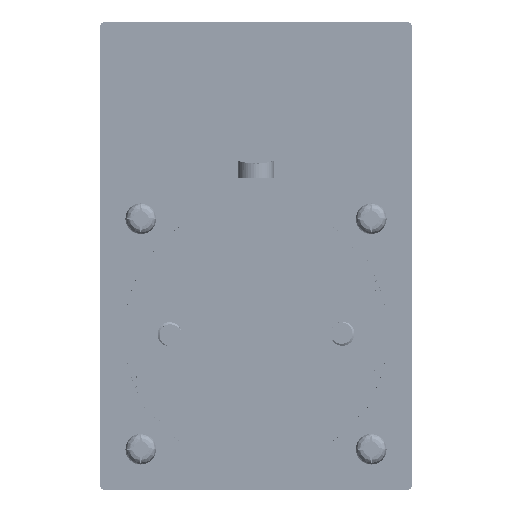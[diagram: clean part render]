
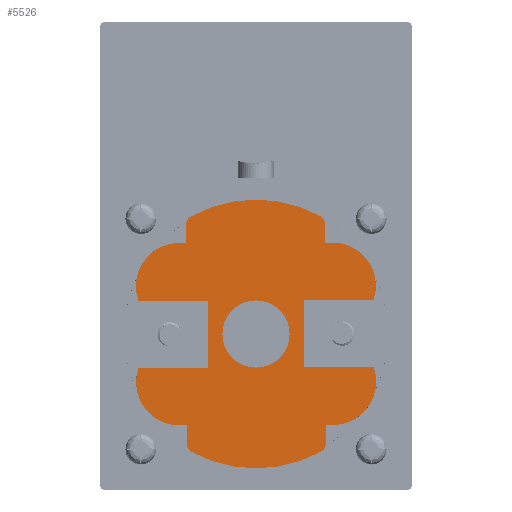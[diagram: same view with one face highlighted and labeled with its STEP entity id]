
A CAD part, front view. The second image highlights one B-rep face of the part: STEP entity #5526.
In plain terms, the highlighted planar face has unit normal (0, -1, 0).
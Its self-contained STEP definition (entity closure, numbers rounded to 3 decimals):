
#5526=ADVANCED_FACE('',(#12240,#12241),#6732,.F.);
#6732=PLANE('',#37020);
#8851=LINE('',#160143,#11273);
#8854=LINE('',#160149,#11276);
#8858=LINE('',#160161,#11280);
#8861=LINE('',#160169,#11283);
#8863=LINE('',#160173,#11285);
#8865=LINE('',#160177,#11287);
#8867=LINE('',#160193,#11289);
#8871=LINE('',#160214,#11293);
#8873=LINE('',#160231,#11295);
#8875=LINE('',#160235,#11297);
#9004=LINE('',#160579,#11426);
#9009=LINE('',#160591,#11431);
#9044=LINE('',#160705,#11466);
#9048=LINE('',#160727,#11470);
#11273=VECTOR('',#44449,1.);
#11276=VECTOR('',#44454,1.);
#11280=VECTOR('',#44466,1.);
#11283=VECTOR('',#44475,1.);
#11285=VECTOR('',#44479,1.);
#11287=VECTOR('',#44483,1.);
#11289=VECTOR('',#44491,1.);
#11293=VECTOR('',#44501,1.);
#11295=VECTOR('',#44511,1.);
#11297=VECTOR('',#44515,1.);
#11426=VECTOR('',#44856,1.);
#11431=VECTOR('',#44871,1.);
#11466=VECTOR('',#44972,1.);
#11470=VECTOR('',#44998,1.);
#12240=FACE_BOUND('',#14242,.T.);
#12241=FACE_BOUND('',#14243,.T.);
#14242=EDGE_LOOP('',(#23365,#23366,#23367,#23368,#23369,#23370,#23371,#23372,
#23373,#23374,#23375,#23376,#23377,#23378,#23379,#23380,#23381,#23382,#23383,
#23384,#23385,#23386,#23387,#23388,#23389));
#14243=EDGE_LOOP('',(#23390));
#23365=ORIENTED_EDGE('',*,*,#32181,.F.);
#23366=ORIENTED_EDGE('',*,*,#32179,.T.);
#23367=ORIENTED_EDGE('',*,*,#32175,.T.);
#23368=ORIENTED_EDGE('',*,*,#32356,.T.);
#23369=ORIENTED_EDGE('',*,*,#32424,.T.);
#23370=ORIENTED_EDGE('',*,*,#32425,.T.);
#23371=ORIENTED_EDGE('',*,*,#32426,.T.);
#23372=ORIENTED_EDGE('',*,*,#32364,.T.);
#23373=ORIENTED_EDGE('',*,*,#32171,.T.);
#23374=ORIENTED_EDGE('',*,*,#32168,.T.);
#23375=ORIENTED_EDGE('',*,*,#32165,.T.);
#23376=ORIENTED_EDGE('',*,*,#32163,.F.);
#23377=ORIENTED_EDGE('',*,*,#32161,.F.);
#23378=ORIENTED_EDGE('',*,*,#32159,.F.);
#23379=ORIENTED_EDGE('',*,*,#32157,.T.);
#23380=ORIENTED_EDGE('',*,*,#32155,.T.);
#23381=ORIENTED_EDGE('',*,*,#32417,.T.);
#23382=ORIENTED_EDGE('',*,*,#32427,.T.);
#23383=ORIENTED_EDGE('',*,*,#32428,.T.);
#23384=ORIENTED_EDGE('',*,*,#32429,.T.);
#23385=ORIENTED_EDGE('',*,*,#32430,.T.);
#23386=ORIENTED_EDGE('',*,*,#32183,.T.);
#23387=ORIENTED_EDGE('',*,*,#32152,.T.);
#23388=ORIENTED_EDGE('',*,*,#32149,.F.);
#23389=ORIENTED_EDGE('',*,*,#32146,.F.);
#23390=ORIENTED_EDGE('',*,*,#32145,.F.);
#27413=VERTEX_POINT('',#160141);
#27414=VERTEX_POINT('',#160144);
#27415=VERTEX_POINT('',#160145);
#27416=VERTEX_POINT('',#160150);
#27418=VERTEX_POINT('',#160156);
#27419=VERTEX_POINT('',#160160);
#27420=VERTEX_POINT('',#160162);
#27421=VERTEX_POINT('',#160166);
#27422=VERTEX_POINT('',#160170);
#27423=VERTEX_POINT('',#160174);
#27424=VERTEX_POINT('',#160178);
#27425=VERTEX_POINT('',#160182);
#27427=VERTEX_POINT('',#160194);
#27429=VERTEX_POINT('',#160206);
#27432=VERTEX_POINT('',#160213);
#27433=VERTEX_POINT('',#160215);
#27435=VERTEX_POINT('',#160228);
#27437=VERTEX_POINT('',#160236);
#27536=VERTEX_POINT('',#160577);
#27540=VERTEX_POINT('',#160592);
#27580=VERTEX_POINT('',#160703);
#27584=VERTEX_POINT('',#160717);
#27585=VERTEX_POINT('',#160719);
#27586=VERTEX_POINT('',#160722);
#27587=VERTEX_POINT('',#160724);
#27588=VERTEX_POINT('',#160726);
#32145=EDGE_CURVE('',#27413,#27413,#34060,.T.);
#32146=EDGE_CURVE('',#27414,#27415,#8851,.T.);
#32149=EDGE_CURVE('',#27415,#27416,#8854,.T.);
#32152=EDGE_CURVE('',#27418,#27416,#34062,.T.);
#32155=EDGE_CURVE('',#27420,#27419,#8858,.T.);
#32157=EDGE_CURVE('',#27421,#27420,#34063,.T.);
#32159=EDGE_CURVE('',#27421,#27422,#8861,.T.);
#32161=EDGE_CURVE('',#27422,#27423,#8863,.T.);
#32163=EDGE_CURVE('',#27423,#27424,#8865,.T.);
#32165=EDGE_CURVE('',#27425,#27424,#34064,.T.);
#32168=EDGE_CURVE('',#27427,#27425,#8867,.T.);
#32171=EDGE_CURVE('',#27429,#27427,#34065,.T.);
#32175=EDGE_CURVE('',#27433,#27432,#8871,.T.);
#32179=EDGE_CURVE('',#27435,#27433,#34067,.T.);
#32181=EDGE_CURVE('',#27435,#27414,#8873,.T.);
#32183=EDGE_CURVE('',#27437,#27418,#8875,.T.);
#32356=EDGE_CURVE('',#27432,#27536,#9004,.T.);
#32364=EDGE_CURVE('',#27540,#27429,#9009,.T.);
#32417=EDGE_CURVE('',#27419,#27580,#9044,.T.);
#32424=EDGE_CURVE('',#27536,#27584,#34133,.T.);
#32425=EDGE_CURVE('',#27584,#27585,#34134,.T.);
#32426=EDGE_CURVE('',#27585,#27540,#34135,.T.);
#32427=EDGE_CURVE('',#27580,#27586,#34136,.T.);
#32428=EDGE_CURVE('',#27586,#27587,#34137,.T.);
#32429=EDGE_CURVE('',#27587,#27588,#34138,.T.);
#32430=EDGE_CURVE('',#27588,#27437,#9048,.T.);
#34060=CIRCLE('',#36842,7.);
#34062=CIRCLE('',#36847,9.);
#34063=CIRCLE('',#36850,9.);
#34064=CIRCLE('',#36855,9.);
#34065=CIRCLE('',#36858,8.96);
#34067=CIRCLE('',#36862,9.);
#34133=CIRCLE('',#37014,2.);
#34134=CIRCLE('',#37015,28.);
#34135=CIRCLE('',#37016,2.);
#34136=CIRCLE('',#37017,2.);
#34137=CIRCLE('',#37018,28.);
#34138=CIRCLE('',#37019,2.);
#36842=AXIS2_PLACEMENT_3D('',#160140,#44445,#44446);
#36847=AXIS2_PLACEMENT_3D('',#160155,#44460,#44461);
#36850=AXIS2_PLACEMENT_3D('',#160165,#44470,#44471);
#36855=AXIS2_PLACEMENT_3D('',#160181,#44487,#44488);
#36858=AXIS2_PLACEMENT_3D('',#160205,#44494,#44495);
#36862=AXIS2_PLACEMENT_3D('',#160227,#44506,#44507);
#37014=AXIS2_PLACEMENT_3D('',#160716,#44986,#44987);
#37015=AXIS2_PLACEMENT_3D('',#160718,#44988,#44989);
#37016=AXIS2_PLACEMENT_3D('',#160720,#44990,#44991);
#37017=AXIS2_PLACEMENT_3D('',#160721,#44992,#44993);
#37018=AXIS2_PLACEMENT_3D('',#160723,#44994,#44995);
#37019=AXIS2_PLACEMENT_3D('',#160725,#44996,#44997);
#37020=AXIS2_PLACEMENT_3D('',#160728,#44999,#45000);
#44445=DIRECTION('',(0.,-1.,0.));
#44446=DIRECTION('',(-1.,0.,-0.003));
#44449=DIRECTION('',(-0.003,0.,1.));
#44454=DIRECTION('',(-1.,0.,-0.003));
#44460=DIRECTION('',(0.,-1.,0.));
#44461=DIRECTION('',(-1.,0.,-0.003));
#44466=DIRECTION('',(-1.,0.,-0.003));
#44470=DIRECTION('',(0.,-1.,0.));
#44471=DIRECTION('',(1.,0.,0.003));
#44475=DIRECTION('',(-1.,0.,-0.003));
#44479=DIRECTION('',(0.003,0.,-1.));
#44483=DIRECTION('',(1.,0.,0.003));
#44487=DIRECTION('',(0.,-1.,0.));
#44488=DIRECTION('',(0.,0.,-1.));
#44491=DIRECTION('',(1.,0.,0.003));
#44494=DIRECTION('',(0.,-1.,0.));
#44495=DIRECTION('',(0.,0.,-1.));
#44501=DIRECTION('',(1.,0.,0.003));
#44506=DIRECTION('',(0.,-1.,0.));
#44507=DIRECTION('',(-0.89,0.,0.456));
#44511=DIRECTION('',(1.,0.,0.003));
#44515=DIRECTION('',(-1.,0.,-0.003));
#44856=DIRECTION('',(0.003,0.,-1.));
#44871=DIRECTION('',(-0.003,0.,1.));
#44972=DIRECTION('',(-0.003,0.,1.));
#44986=DIRECTION('',(0.,-1.,0.));
#44987=DIRECTION('',(1.,0.,0.003));
#44988=DIRECTION('',(0.,-1.,0.));
#44989=DIRECTION('',(1.,0.,0.003));
#44990=DIRECTION('',(0.,-1.,0.));
#44991=DIRECTION('',(1.,0.,0.003));
#44992=DIRECTION('',(0.,-1.,0.));
#44993=DIRECTION('',(1.,0.,0.003));
#44994=DIRECTION('',(0.,-1.,0.));
#44995=DIRECTION('',(1.,0.,0.003));
#44996=DIRECTION('',(0.,-1.,0.));
#44997=DIRECTION('',(1.,0.,0.003));
#44998=DIRECTION('',(0.003,0.,-1.));
#44999=DIRECTION('',(0.,1.,0.));
#45000=DIRECTION('',(0.,0.,1.));
#160140=CARTESIAN_POINT('',(0.,-135.1,0.));
#160141=CARTESIAN_POINT('',(-7.,-135.1,-0.018));
#160143=CARTESIAN_POINT('',(-9.982,-135.1,-7.026));
#160144=CARTESIAN_POINT('',(-9.982,-135.1,-7.026));
#160145=CARTESIAN_POINT('',(-10.018,-135.1,6.974));
#160149=CARTESIAN_POINT('',(-10.018,-135.1,6.974));
#160150=CARTESIAN_POINT('',(-24.503,-135.1,6.937));
#160155=CARTESIAN_POINT('',(-16.026,-135.1,9.959));
#160156=CARTESIAN_POINT('',(-16.049,-135.1,18.959));
#160160=CARTESIAN_POINT('',(14.451,-135.1,19.037));
#160161=CARTESIAN_POINT('',(15.951,-135.1,19.041));
#160162=CARTESIAN_POINT('',(15.951,-135.1,19.041));
#160165=CARTESIAN_POINT('',(15.974,-135.1,10.041));
#160166=CARTESIAN_POINT('',(24.467,-135.1,7.063));
#160169=CARTESIAN_POINT('',(34.164,-135.1,7.088));
#160170=CARTESIAN_POINT('',(9.982,-135.1,7.026));
#160173=CARTESIAN_POINT('',(9.982,-135.1,7.026));
#160174=CARTESIAN_POINT('',(10.018,-135.1,-6.974));
#160177=CARTESIAN_POINT('',(10.018,-135.1,-6.974));
#160178=CARTESIAN_POINT('',(24.503,-135.1,-6.937));
#160181=CARTESIAN_POINT('',(16.026,-135.1,-9.959));
#160182=CARTESIAN_POINT('',(16.119,-135.1,-18.958));
#160193=CARTESIAN_POINT('',(23.752,-135.1,-18.938));
#160194=CARTESIAN_POINT('',(15.978,-135.1,-18.959));
#160205=CARTESIAN_POINT('',(16.02,-135.1,-9.999));
#160206=CARTESIAN_POINT('',(14.548,-135.1,-18.837));
#160213=CARTESIAN_POINT('',(-14.451,-135.1,-19.037));
#160214=CARTESIAN_POINT('',(23.753,-135.1,-18.934));
#160215=CARTESIAN_POINT('',(-15.951,-135.1,-19.041));
#160227=CARTESIAN_POINT('',(-15.974,-135.1,-10.041));
#160228=CARTESIAN_POINT('',(-24.468,-135.1,-7.063));
#160231=CARTESIAN_POINT('',(-34.164,-135.1,-7.088));
#160235=CARTESIAN_POINT('',(-14.549,-135.1,18.963));
#160236=CARTESIAN_POINT('',(-14.549,-135.1,18.963));
#160577=CARTESIAN_POINT('',(-14.441,-135.1,-22.835));
#160579=CARTESIAN_POINT('',(-14.451,-135.1,-19.037));
#160591=CARTESIAN_POINT('',(14.558,-135.1,-22.761));
#160592=CARTESIAN_POINT('',(14.558,-135.1,-22.761));
#160703=CARTESIAN_POINT('',(14.441,-135.1,22.835));
#160705=CARTESIAN_POINT('',(14.451,-135.1,19.037));
#160716=CARTESIAN_POINT('',(-12.441,-135.1,-22.83));
#160717=CARTESIAN_POINT('',(-13.398,-135.1,-24.586));
#160718=CARTESIAN_POINT('',(0.,-135.1,0.));
#160719=CARTESIAN_POINT('',(13.525,-135.1,-24.517));
#160720=CARTESIAN_POINT('',(12.558,-135.1,-22.766));
#160721=CARTESIAN_POINT('',(12.441,-135.1,22.83));
#160722=CARTESIAN_POINT('',(13.398,-135.1,24.586));
#160723=CARTESIAN_POINT('',(0.,-135.1,0.));
#160724=CARTESIAN_POINT('',(-13.525,-135.1,24.517));
#160725=CARTESIAN_POINT('',(-12.558,-135.1,22.766));
#160726=CARTESIAN_POINT('',(-14.558,-135.1,22.761));
#160727=CARTESIAN_POINT('',(-14.558,-135.1,22.761));
#160728=CARTESIAN_POINT('',(23.741,-135.1,-14.593));
